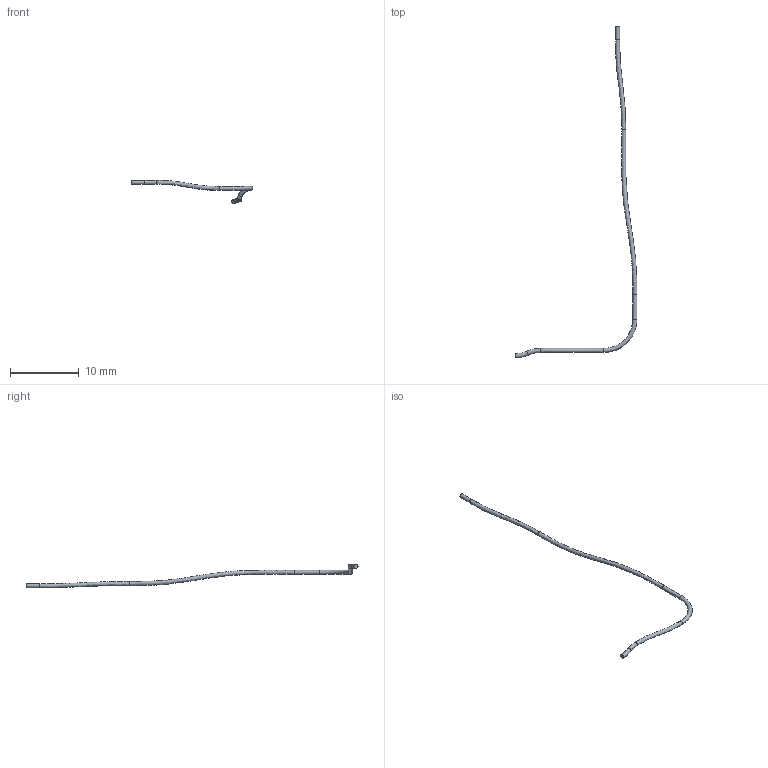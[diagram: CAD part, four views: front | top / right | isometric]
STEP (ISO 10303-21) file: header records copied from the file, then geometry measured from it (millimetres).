
FILE_DESCRIPTION(('FreeCAD Model'),'2;1');
FILE_NAME('Open CASCADE Shape Model','2026-11-12T12:41:48',('FreeCAD'),( 'FreeCAD'),'Open CASCADE STEP processor 7.8','FreeCAD','Unknown');
FILE_SCHEMA(('AUTOMOTIVE_DESIGN { 1 0 10303 214 1 1 1 1 }'));
Length unit declared in the file: millimetre
Products named in the file (1): Open CASCADE STEP translator 7.8 3
Bounding box: 17.72 x 48.34 x 3.41 mm (x, y, z)
Volume: 17.9 mm3; surface area: 119.6 mm2
Topology: 1 solids, 1 shells, 10 faces, 17 edges, 9 vertices
Faces by surface type: bspline 3, torus 3, cylinder 2, plane 2
Full cylindrical faces by diameter (mm): 0.6 x2
Entity records: 2676 total; most frequent: CARTESIAN_POINT 2496, DIRECTION 36, ORIENTED_EDGE 34, AXIS2_PLACEMENT_3D 17, EDGE_CURVE 17, ADVANCED_FACE 10, FACE_BOUND 10, EDGE_LOOP 10
